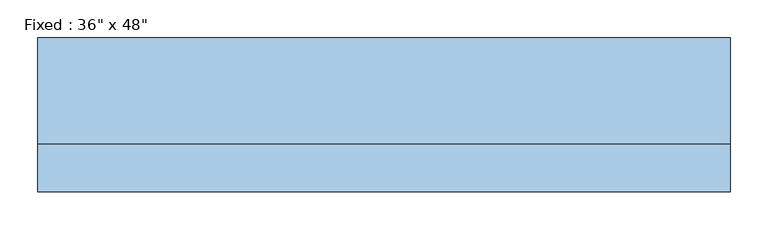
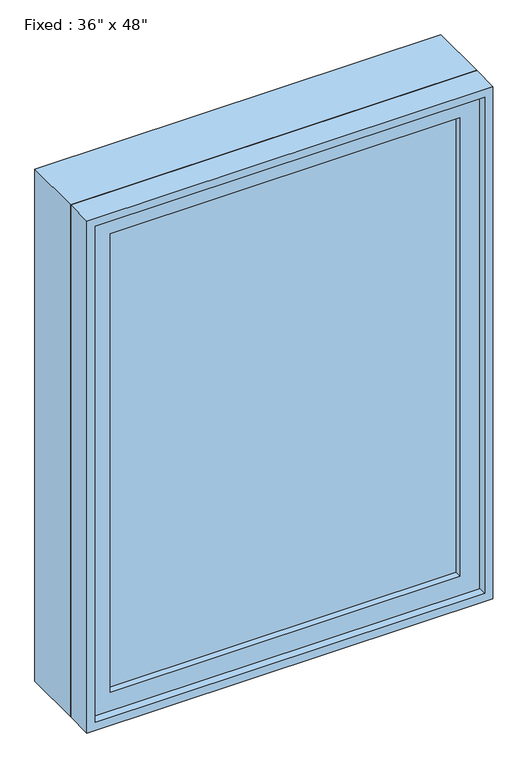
"""IFC4 building model written with IfcOpenShell, lengths in millimetres: window geometry."""

from ifc_helpers import new_model, si_unit, frame, origin, place, context, project, spatial, polyline, outline, extrude, source, transform, mapped, element, save


def window_209efcd5(model_context):
    return source(origin(), model_context, "Body", "SweptSolid", [
        extrude(outline(polyline([(355.6, -53.975), (355.6, -66.675), (-431.8, -66.675), (-431.8, -53.975), (355.6, -53.975)])), frame((0.0, 0.0, 977.9), z_axis=(0.0, 0.0, 1.0), x_axis=(1.0, 0.0, 0.0)), (0.0, 0.0, 1.0), 1092.2),
        extrude(outline(polyline([(2114.55, -476.25), (933.45, -476.25), (933.45, 400.05), (2114.55, 400.05), (2114.55, -476.25)]), holes=[polyline([(2070.1, -431.8), (2070.1, 355.6), (977.9, 355.6), (977.9, -431.8), (2070.1, -431.8)])]), frame((0.0, -82.55, 0.0), z_axis=(0.0, 1.0, 0.0), x_axis=(0.0, 0.0, 1.0)), (0.0, 0.0, 1.0), 44.45),
        extrude(outline(polyline([(2133.6, -495.3), (914.4, -495.3), (914.4, 419.1), (2133.6, 419.1), (2133.6, -495.3)]), holes=[polyline([(2101.85, -463.55), (2101.85, 387.35), (946.15, 387.35), (946.15, -463.55), (2101.85, -463.55)])]), frame((0.0, -38.1, 0.0), z_axis=(0.0, 1.0, 0.0), x_axis=(0.0, 0.0, 1.0)), (0.0, 0.0, 1.0), 139.7),
        extrude(outline(polyline([(2133.6, 419.1), (2133.6, -495.3), (914.4, -495.3), (914.4, 419.1), (2133.6, 419.1)]), holes=[polyline([(2114.55, 400.05), (933.45, 400.05), (933.45, -476.25), (2114.55, -476.25), (2114.55, 400.05)])]), frame((0.0, -101.6, 0.0), z_axis=(0.0, 1.0, 0.0), x_axis=(0.0, 0.0, 1.0)), (0.0, 0.0, 1.0), 63.5),
    ])


if __name__ == "__main__":
    model = new_model("IFC4")
    model_context = context("Model", 3, world=origin())
    ifc_project = project(units=[si_unit("LENGTHUNIT", "METRE", prefix="MILLI")], contexts=[model_context])
    site = spatial("IfcSite", under=ifc_project)
    building = spatial("IfcBuilding", under=site)
    placement = place(None, origin())
    window_shape = window_209efcd5(model_context)
    element("IfcWindow", 1, ObjectType="Fixed : 36\" x 48\"", at=placement, inside=building, context=model_context, shape_type="MappedRepresentation", body=[
        mapped(window_shape, transform((0.0, 0.0, 0.0), x_axis=(1.0, 0.0, 0.0), y_axis=(0.0, 1.0, 0.0), z_axis=(0.0, 0.0, 1.0))),
    ])
    save(model, "model.ifc")
